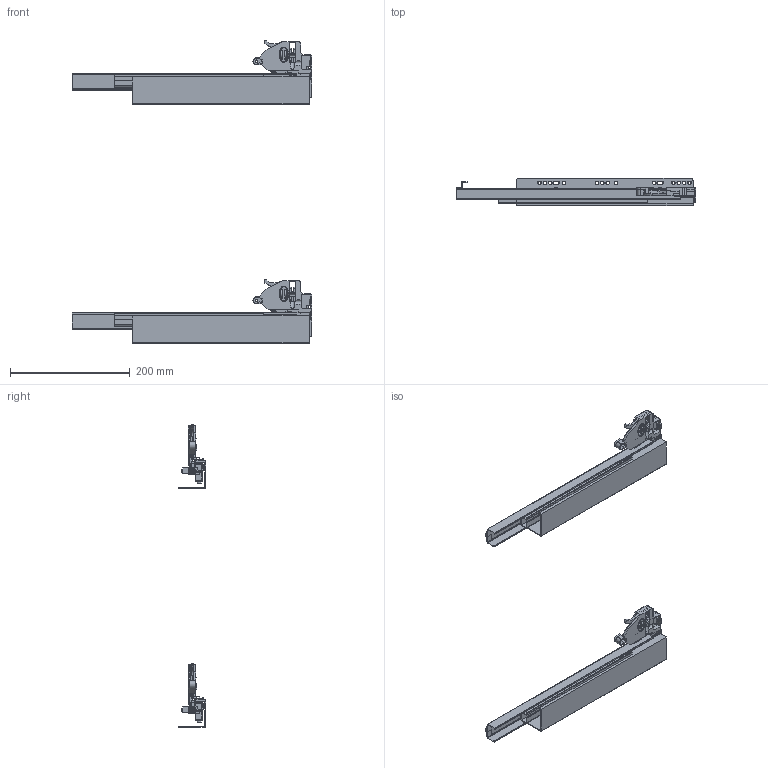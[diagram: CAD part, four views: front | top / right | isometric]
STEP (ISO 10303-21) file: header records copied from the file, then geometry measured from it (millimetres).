
FILE_DESCRIPTION(/* description */ (''),/* implementation_level */ '2;1');
FILE_NAME(/* name */ 'C:\Users\dmitruk\Documents\WORK\НАПРАВЛЯЮЩИЕ\Скрытого монтажаНаправляющие скрытого монтажа 3D-400.stp',/* time_stamp */ '2022-07-29T12:20:52+03:00',/* author */ ('dmitruk'),/* organization */ (''),/* preprocessor_version */ 'ST-DEVELOPER v16.5',/* originating_system */ 'Autodesk Inventor 2017',/* authorisation */ '');
FILE_SCHEMA (('AUTOMOTIVE_DESIGN { 1 0 10303 214 3 1 1 }'));
Length unit declared in the file: millimetre
Products named in the file (6): Направляющие \X2\0441043A
0440044B0442043E0433043E\X0\ монтажа 3D; Направляющие \X2\0441043A
0440044B0442043E0433043E\X0\ монтажа 3D \X2\043F
044004300432\X0\; 3D CP; 3D DP; Крепление 3D \X2\043B
04350432\X0\; 3D Направляющие \X2\0441043A
0440044B0442043E0433043E\X0\ монтажа \X2\043F
043E043B043D043E0433043E\X0\ \X2\0432044B04340432043804360435043D0438044F
\X0\ slim DW slim slide
Assembly tree (6 placements, depth 3):
  Направляющие \X2\0441043A
0440044B0442043E0433043E\X0\ монтажа 3D
    Направляющие \X2\0441043A
0440044B0442043E0433043E\X0\ монтажа 3D \X2\043F
044004300432\X0\  x2
      3D CP
      3D DP
      Крепление 3D \X2\043B
04350432\X0\
      3D Направляющие \X2\0441043A
0440044B0442043E0433043E\X0\ монтажа \X2\043F
043E043B043D043E0433043E\X0\ \X2\0432044B04340432043804360435043D0438044F
\X0\ slim DW slim slide
Bounding box: 400 x 46 x 506.67 mm (x, y, z)
Volume: 270194.8 mm3; surface area: 343623.4 mm2
Topology: 24 solids, 24 shells, 994 faces, 2810 edges, 1850 vertices
Faces by surface type: plane 772, cylinder 208, cone 6, sphere 4, bspline 2, torus 2
Full cylindrical faces by diameter (mm): 3.8 x10, 6 x52, 7 x2, 12 x4
Entity records: 16307 total; most frequent: CARTESIAN_POINT 2955, ORIENTED_EDGE 2734, DIRECTION 2605, EDGE_CURVE 1364, LINE 1127, VECTOR 1127, VERTEX_POINT 921, AXIS2_PLACEMENT_3D 739
